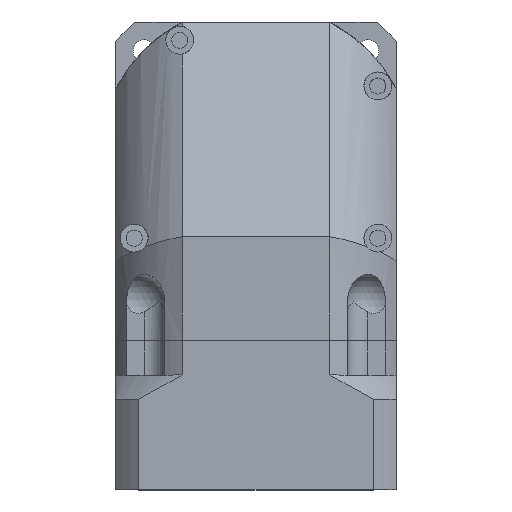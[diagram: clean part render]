
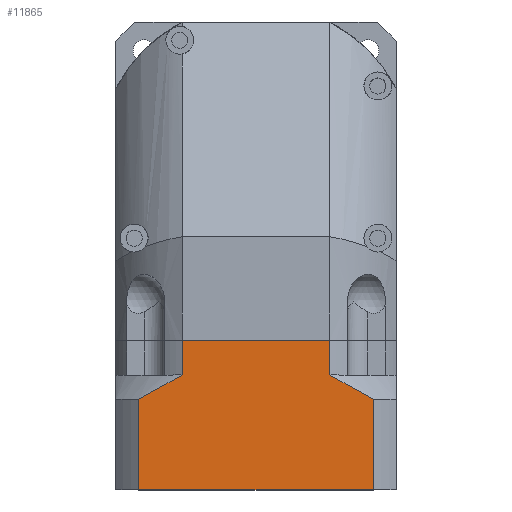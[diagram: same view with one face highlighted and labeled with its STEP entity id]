
A CAD part, top view. The second image highlights one B-rep face of the part: STEP entity #11865.
In plain terms, the highlighted planar face has unit normal (0, 0, 1) as drawn and (0, 0, -1) by its records, which use the part's own axes.
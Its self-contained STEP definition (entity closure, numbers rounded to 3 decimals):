
#10533=DIRECTION('',(-1.,0.,0.));
#10534=VECTOR('',#10533,96.307);
#10535=CARTESIAN_POINT('',(48.153,61.,-57.5));
#10536=LINE('',#10535,#10534);
#10665=DIRECTION('',(0.,1.,0.));
#10666=VECTOR('',#10665,37.);
#10667=CARTESIAN_POINT('',(-48.153,24.,-57.5));
#10668=LINE('',#10667,#10666);
#10669=CARTESIAN_POINT('',(-30.311,14.,-57.5));
#10670=CARTESIAN_POINT('',(-32.129,14.848,-57.5));
#10671=CARTESIAN_POINT('',(-35.875,16.716,-57.5));
#10672=CARTESIAN_POINT('',(-41.733,19.991,-57.5));
#10673=CARTESIAN_POINT('',(-45.969,22.597,-57.5));
#10674=CARTESIAN_POINT('',(-48.153,24.,-57.5));
#10676=DIRECTION('',(0.,1.,0.));
#10677=VECTOR('',#10676,14.);
#10678=CARTESIAN_POINT('',(30.311,0.,-57.5));
#10679=LINE('',#10678,#10677);
#10680=CARTESIAN_POINT('',(48.153,24.,-57.5));
#10681=CARTESIAN_POINT('',(45.957,22.59,-57.5));
#10682=CARTESIAN_POINT('',(41.705,19.975,-57.5));
#10683=CARTESIAN_POINT('',(35.841,16.698,-57.5));
#10684=CARTESIAN_POINT('',(32.114,14.841,-57.5));
#10685=CARTESIAN_POINT('',(30.311,14.,-57.5));
#10687=DIRECTION('',(0.,1.,0.));
#10688=VECTOR('',#10687,37.);
#10689=CARTESIAN_POINT('',(48.153,24.,-57.5));
#10690=LINE('',#10689,#10688);
#10869=DIRECTION('',(-1.,0.,0.));
#10870=VECTOR('',#10869,60.622);
#10871=CARTESIAN_POINT('',(30.311,0.,-57.5));
#10872=LINE('',#10871,#10870);
#10883=DIRECTION('',(0.,1.,0.));
#10884=VECTOR('',#10883,14.);
#10885=CARTESIAN_POINT('',(-30.311,0.,-57.5));
#10886=LINE('',#10885,#10884);
#11329=CARTESIAN_POINT('',(-30.311,0.,-57.5));
#11331=VERTEX_POINT('',#11329);
#11375=CARTESIAN_POINT('',(30.311,0.,-57.5));
#11376=VERTEX_POINT('',#11375);
#11417=CARTESIAN_POINT('',(-30.311,14.,-57.5));
#11418=VERTEX_POINT('',#11417);
#11431=CARTESIAN_POINT('',(30.311,14.,-57.5));
#11432=VERTEX_POINT('',#11431);
#11434=CARTESIAN_POINT('',(48.153,61.,-57.5));
#11436=VERTEX_POINT('',#11434);
#11437=CARTESIAN_POINT('',(-48.153,61.,-57.5));
#11439=VERTEX_POINT('',#11437);
#11450=CARTESIAN_POINT('',(48.153,24.,-57.5));
#11452=VERTEX_POINT('',#11450);
#11453=CARTESIAN_POINT('',(-48.153,24.,-57.5));
#11455=VERTEX_POINT('',#11453);
#11845=CARTESIAN_POINT('',(30.311,0.,-57.5));
#11846=DIRECTION('',(0.,0.,-1.));
#11847=DIRECTION('',(-1.,0.,0.));
#11848=AXIS2_PLACEMENT_3D('',#11845,#11846,#11847);
#11849=PLANE('',#11848);
#11850=ORIENTED_EDGE('',*,*,#11598,.T.);
#11851=ORIENTED_EDGE('',*,*,#11839,.F.);
#11853=ORIENTED_EDGE('',*,*,#11852,.F.);
#11855=ORIENTED_EDGE('',*,*,#11854,.F.);
#11857=ORIENTED_EDGE('',*,*,#11856,.F.);
#11859=ORIENTED_EDGE('',*,*,#11858,.T.);
#11861=ORIENTED_EDGE('',*,*,#11860,.F.);
#11862=ORIENTED_EDGE('',*,*,#11820,.T.);
#11863=EDGE_LOOP('',(#11850,#11851,#11853,#11855,#11857,#11859,#11861,#11862));
#11864=FACE_OUTER_BOUND('',#11863,.F.);
#11865=ADVANCED_FACE('',(#11864),#11849,.T.);
#10675=B_SPLINE_CURVE_WITH_KNOTS('',3,(#10669,#10670,#10671,#10672,#10673,
#10674),.UNSPECIFIED.,.F.,.F.,(4,1,1,4),(0.,0.333,
0.667,1.),.UNSPECIFIED.);
#10686=B_SPLINE_CURVE_WITH_KNOTS('',3,(#10680,#10681,#10682,#10683,#10684,
#10685),.UNSPECIFIED.,.F.,.F.,(4,1,1,4),(0.,0.333,
0.667,1.),.UNSPECIFIED.);
#11598=EDGE_CURVE('',#11436,#11439,#10536,.T.);
#11820=EDGE_CURVE('',#11452,#11436,#10690,.T.);
#11839=EDGE_CURVE('',#11455,#11439,#10668,.T.);
#11852=EDGE_CURVE('',#11418,#11455,#10675,.T.);
#11854=EDGE_CURVE('',#11331,#11418,#10886,.T.);
#11856=EDGE_CURVE('',#11376,#11331,#10872,.T.);
#11858=EDGE_CURVE('',#11376,#11432,#10679,.T.);
#11860=EDGE_CURVE('',#11452,#11432,#10686,.T.);
